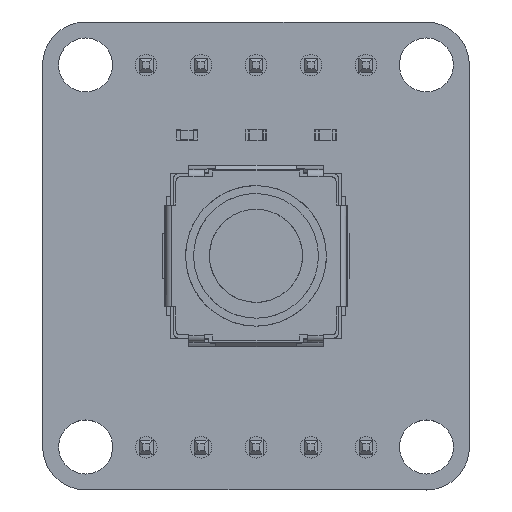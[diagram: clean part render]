
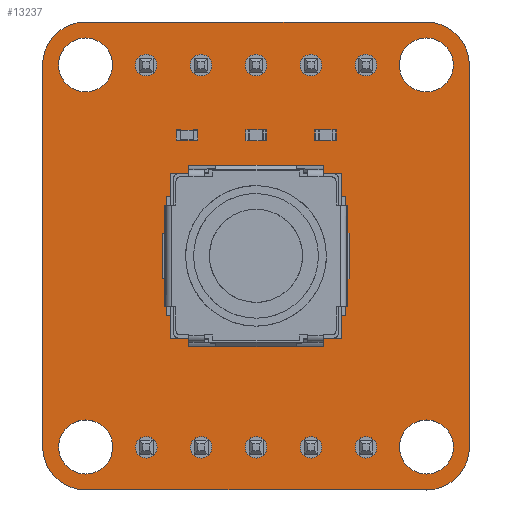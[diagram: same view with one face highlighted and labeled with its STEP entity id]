
A CAD part, top view. The second image highlights one B-rep face of the part: STEP entity #13237.
In plain terms, the highlighted planar face has unit normal (0, 0, 1).
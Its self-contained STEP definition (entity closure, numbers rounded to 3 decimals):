
#12934 = VERTEX_POINT('',#12935);
#12935 = CARTESIAN_POINT('',(153.577,-57.803,1.6));
#12941 = EDGE_CURVE('',#12934,#12942,#12944,.T.);
#12942 = VERTEX_POINT('',#12943);
#12943 = CARTESIAN_POINT('',(155.563,-59.788,1.6));
#12944 = CIRCLE('',#12945,1.986);
#12945 = AXIS2_PLACEMENT_3D('',#12946,#12947,#12948);
#12946 = CARTESIAN_POINT('',(153.577,-59.789,1.6));
#12947 = DIRECTION('',(0.,0.,-1.));
#12948 = DIRECTION('',(0.,1.,0.));
#12976 = VERTEX_POINT('',#12977);
#12977 = CARTESIAN_POINT('',(137.818,-57.803,1.6));
#12983 = EDGE_CURVE('',#12976,#12934,#12984,.T.);
#12984 = LINE('',#12985,#12986);
#12985 = CARTESIAN_POINT('',(137.818,-57.803,1.6));
#12986 = VECTOR('',#12987,1.);
#12987 = DIRECTION('',(1.,0.,0.));
#13005 = EDGE_CURVE('',#12942,#13006,#13008,.T.);
#13006 = VERTEX_POINT('',#13007);
#13007 = CARTESIAN_POINT('',(155.569,-77.454,1.6));
#13008 = LINE('',#13009,#13010);
#13009 = CARTESIAN_POINT('',(155.563,-59.788,1.6));
#13010 = VECTOR('',#13011,1.);
#13011 = DIRECTION('',(0.,-1.,0.));
#13237 = ADVANCED_FACE('',(#13238,#13284,#13295,#13306,#13317,#13328,
    #13339,#13350,#13361,#13372,#13383,#13394,#13405,#13416,#13427),
  #13438,.T.);
#13238 = FACE_BOUND('',#13239,.T.);
#13239 = EDGE_LOOP('',(#13240,#13241,#13242,#13251,#13259,#13268,#13276,
    #13283));
#13240 = ORIENTED_EDGE('',*,*,#12941,.F.);
#13241 = ORIENTED_EDGE('',*,*,#12983,.F.);
#13242 = ORIENTED_EDGE('',*,*,#13243,.F.);
#13243 = EDGE_CURVE('',#13244,#12976,#13246,.T.);
#13244 = VERTEX_POINT('',#13245);
#13245 = CARTESIAN_POINT('',(135.832,-59.789,1.6));
#13246 = CIRCLE('',#13247,1.986);
#13247 = AXIS2_PLACEMENT_3D('',#13248,#13249,#13250);
#13248 = CARTESIAN_POINT('',(137.818,-59.788,1.6));
#13249 = DIRECTION('',(0.,0.,-1.));
#13250 = DIRECTION('',(-1.,0.,-0.));
#13251 = ORIENTED_EDGE('',*,*,#13252,.F.);
#13252 = EDGE_CURVE('',#13253,#13244,#13255,.T.);
#13253 = VERTEX_POINT('',#13254);
#13254 = CARTESIAN_POINT('',(135.838,-77.454,1.6));
#13255 = LINE('',#13256,#13257);
#13256 = CARTESIAN_POINT('',(135.838,-77.454,1.6));
#13257 = VECTOR('',#13258,1.);
#13258 = DIRECTION('',(0.,1.,0.));
#13259 = ORIENTED_EDGE('',*,*,#13260,.F.);
#13260 = EDGE_CURVE('',#13261,#13253,#13263,.T.);
#13261 = VERTEX_POINT('',#13262);
#13262 = CARTESIAN_POINT('',(137.824,-79.439,1.6));
#13263 = CIRCLE('',#13264,1.986);
#13264 = AXIS2_PLACEMENT_3D('',#13265,#13266,#13267);
#13265 = CARTESIAN_POINT('',(137.824,-77.454,1.6));
#13266 = DIRECTION('',(0.,0.,-1.));
#13267 = DIRECTION('',(0.,-1.,-0.));
#13268 = ORIENTED_EDGE('',*,*,#13269,.F.);
#13269 = EDGE_CURVE('',#13270,#13261,#13272,.T.);
#13270 = VERTEX_POINT('',#13271);
#13271 = CARTESIAN_POINT('',(153.583,-79.439,1.6));
#13272 = LINE('',#13273,#13274);
#13273 = CARTESIAN_POINT('',(153.583,-79.439,1.6));
#13274 = VECTOR('',#13275,1.);
#13275 = DIRECTION('',(-1.,0.,0.));
#13276 = ORIENTED_EDGE('',*,*,#13277,.F.);
#13277 = EDGE_CURVE('',#13006,#13270,#13278,.T.);
#13278 = CIRCLE('',#13279,1.986);
#13279 = AXIS2_PLACEMENT_3D('',#13280,#13281,#13282);
#13280 = CARTESIAN_POINT('',(153.583,-77.454,1.6));
#13281 = DIRECTION('',(0.,0.,-1.));
#13282 = DIRECTION('',(1.,0.,0.));
#13283 = ORIENTED_EDGE('',*,*,#13005,.F.);
#13284 = FACE_BOUND('',#13285,.T.);
#13285 = EDGE_LOOP('',(#13286));
#13286 = ORIENTED_EDGE('',*,*,#13287,.T.);
#13287 = EDGE_CURVE('',#13288,#13288,#13290,.T.);
#13288 = VERTEX_POINT('',#13289);
#13289 = CARTESIAN_POINT('',(137.824,-78.704,1.6));
#13290 = CIRCLE('',#13291,1.25);
#13291 = AXIS2_PLACEMENT_3D('',#13292,#13293,#13294);
#13292 = CARTESIAN_POINT('',(137.824,-77.454,1.6));
#13293 = DIRECTION('',(-0.,0.,-1.));
#13294 = DIRECTION('',(-0.,-1.,0.));
#13295 = FACE_BOUND('',#13296,.T.);
#13296 = EDGE_LOOP('',(#13297));
#13297 = ORIENTED_EDGE('',*,*,#13298,.T.);
#13298 = EDGE_CURVE('',#13299,#13299,#13301,.T.);
#13299 = VERTEX_POINT('',#13300);
#13300 = CARTESIAN_POINT('',(140.625,-77.969,1.6));
#13301 = CIRCLE('',#13302,0.5);
#13302 = AXIS2_PLACEMENT_3D('',#13303,#13304,#13305);
#13303 = CARTESIAN_POINT('',(140.625,-77.469,1.6));
#13304 = DIRECTION('',(-0.,0.,-1.));
#13305 = DIRECTION('',(-0.,-1.,0.));
#13306 = FACE_BOUND('',#13307,.T.);
#13307 = EDGE_LOOP('',(#13308));
#13308 = ORIENTED_EDGE('',*,*,#13309,.T.);
#13309 = EDGE_CURVE('',#13310,#13310,#13312,.T.);
#13310 = VERTEX_POINT('',#13311);
#13311 = CARTESIAN_POINT('',(143.165,-77.969,1.6));
#13312 = CIRCLE('',#13313,0.5);
#13313 = AXIS2_PLACEMENT_3D('',#13314,#13315,#13316);
#13314 = CARTESIAN_POINT('',(143.165,-77.469,1.6));
#13315 = DIRECTION('',(-0.,0.,-1.));
#13316 = DIRECTION('',(-0.,-1.,0.));
#13317 = FACE_BOUND('',#13318,.T.);
#13318 = EDGE_LOOP('',(#13319));
#13319 = ORIENTED_EDGE('',*,*,#13320,.T.);
#13320 = EDGE_CURVE('',#13321,#13321,#13323,.T.);
#13321 = VERTEX_POINT('',#13322);
#13322 = CARTESIAN_POINT('',(145.705,-77.969,1.6));
#13323 = CIRCLE('',#13324,0.5);
#13324 = AXIS2_PLACEMENT_3D('',#13325,#13326,#13327);
#13325 = CARTESIAN_POINT('',(145.705,-77.469,1.6));
#13326 = DIRECTION('',(-0.,0.,-1.));
#13327 = DIRECTION('',(-0.,-1.,0.));
#13328 = FACE_BOUND('',#13329,.T.);
#13329 = EDGE_LOOP('',(#13330));
#13330 = ORIENTED_EDGE('',*,*,#13331,.T.);
#13331 = EDGE_CURVE('',#13332,#13332,#13334,.T.);
#13332 = VERTEX_POINT('',#13333);
#13333 = CARTESIAN_POINT('',(148.245,-77.969,1.6));
#13334 = CIRCLE('',#13335,0.5);
#13335 = AXIS2_PLACEMENT_3D('',#13336,#13337,#13338);
#13336 = CARTESIAN_POINT('',(148.245,-77.469,1.6));
#13337 = DIRECTION('',(-0.,0.,-1.));
#13338 = DIRECTION('',(-0.,-1.,0.));
#13339 = FACE_BOUND('',#13340,.T.);
#13340 = EDGE_LOOP('',(#13341));
#13341 = ORIENTED_EDGE('',*,*,#13342,.T.);
#13342 = EDGE_CURVE('',#13343,#13343,#13345,.T.);
#13343 = VERTEX_POINT('',#13344);
#13344 = CARTESIAN_POINT('',(150.785,-77.969,1.6));
#13345 = CIRCLE('',#13346,0.5);
#13346 = AXIS2_PLACEMENT_3D('',#13347,#13348,#13349);
#13347 = CARTESIAN_POINT('',(150.785,-77.469,1.6));
#13348 = DIRECTION('',(-0.,0.,-1.));
#13349 = DIRECTION('',(-0.,-1.,0.));
#13350 = FACE_BOUND('',#13351,.T.);
#13351 = EDGE_LOOP('',(#13352));
#13352 = ORIENTED_EDGE('',*,*,#13353,.T.);
#13353 = EDGE_CURVE('',#13354,#13354,#13356,.T.);
#13354 = VERTEX_POINT('',#13355);
#13355 = CARTESIAN_POINT('',(153.583,-78.704,1.6));
#13356 = CIRCLE('',#13357,1.25);
#13357 = AXIS2_PLACEMENT_3D('',#13358,#13359,#13360);
#13358 = CARTESIAN_POINT('',(153.583,-77.454,1.6));
#13359 = DIRECTION('',(-0.,0.,-1.));
#13360 = DIRECTION('',(-0.,-1.,0.));
#13361 = FACE_BOUND('',#13362,.T.);
#13362 = EDGE_LOOP('',(#13363));
#13363 = ORIENTED_EDGE('',*,*,#13364,.T.);
#13364 = EDGE_CURVE('',#13365,#13365,#13367,.T.);
#13365 = VERTEX_POINT('',#13366);
#13366 = CARTESIAN_POINT('',(137.818,-61.039,1.6));
#13367 = CIRCLE('',#13368,1.25);
#13368 = AXIS2_PLACEMENT_3D('',#13369,#13370,#13371);
#13369 = CARTESIAN_POINT('',(137.818,-59.789,1.6));
#13370 = DIRECTION('',(-0.,0.,-1.));
#13371 = DIRECTION('',(-0.,-1.,0.));
#13372 = FACE_BOUND('',#13373,.T.);
#13373 = EDGE_LOOP('',(#13374));
#13374 = ORIENTED_EDGE('',*,*,#13375,.T.);
#13375 = EDGE_CURVE('',#13376,#13376,#13378,.T.);
#13376 = VERTEX_POINT('',#13377);
#13377 = CARTESIAN_POINT('',(140.62,-60.299,1.6));
#13378 = CIRCLE('',#13379,0.5);
#13379 = AXIS2_PLACEMENT_3D('',#13380,#13381,#13382);
#13380 = CARTESIAN_POINT('',(140.62,-59.799,1.6));
#13381 = DIRECTION('',(-0.,0.,-1.));
#13382 = DIRECTION('',(-0.,-1.,0.));
#13383 = FACE_BOUND('',#13384,.T.);
#13384 = EDGE_LOOP('',(#13385));
#13385 = ORIENTED_EDGE('',*,*,#13386,.T.);
#13386 = EDGE_CURVE('',#13387,#13387,#13389,.T.);
#13387 = VERTEX_POINT('',#13388);
#13388 = CARTESIAN_POINT('',(143.16,-60.299,1.6));
#13389 = CIRCLE('',#13390,0.5);
#13390 = AXIS2_PLACEMENT_3D('',#13391,#13392,#13393);
#13391 = CARTESIAN_POINT('',(143.16,-59.799,1.6));
#13392 = DIRECTION('',(-0.,0.,-1.));
#13393 = DIRECTION('',(-0.,-1.,0.));
#13394 = FACE_BOUND('',#13395,.T.);
#13395 = EDGE_LOOP('',(#13396));
#13396 = ORIENTED_EDGE('',*,*,#13397,.T.);
#13397 = EDGE_CURVE('',#13398,#13398,#13400,.T.);
#13398 = VERTEX_POINT('',#13399);
#13399 = CARTESIAN_POINT('',(145.7,-60.299,1.6));
#13400 = CIRCLE('',#13401,0.5);
#13401 = AXIS2_PLACEMENT_3D('',#13402,#13403,#13404);
#13402 = CARTESIAN_POINT('',(145.7,-59.799,1.6));
#13403 = DIRECTION('',(-0.,0.,-1.));
#13404 = DIRECTION('',(-0.,-1.,0.));
#13405 = FACE_BOUND('',#13406,.T.);
#13406 = EDGE_LOOP('',(#13407));
#13407 = ORIENTED_EDGE('',*,*,#13408,.T.);
#13408 = EDGE_CURVE('',#13409,#13409,#13411,.T.);
#13409 = VERTEX_POINT('',#13410);
#13410 = CARTESIAN_POINT('',(148.24,-60.299,1.6));
#13411 = CIRCLE('',#13412,0.5);
#13412 = AXIS2_PLACEMENT_3D('',#13413,#13414,#13415);
#13413 = CARTESIAN_POINT('',(148.24,-59.799,1.6));
#13414 = DIRECTION('',(-0.,0.,-1.));
#13415 = DIRECTION('',(-0.,-1.,0.));
#13416 = FACE_BOUND('',#13417,.T.);
#13417 = EDGE_LOOP('',(#13418));
#13418 = ORIENTED_EDGE('',*,*,#13419,.T.);
#13419 = EDGE_CURVE('',#13420,#13420,#13422,.T.);
#13420 = VERTEX_POINT('',#13421);
#13421 = CARTESIAN_POINT('',(150.78,-60.299,1.6));
#13422 = CIRCLE('',#13423,0.5);
#13423 = AXIS2_PLACEMENT_3D('',#13424,#13425,#13426);
#13424 = CARTESIAN_POINT('',(150.78,-59.799,1.6));
#13425 = DIRECTION('',(-0.,0.,-1.));
#13426 = DIRECTION('',(-0.,-1.,0.));
#13427 = FACE_BOUND('',#13428,.T.);
#13428 = EDGE_LOOP('',(#13429));
#13429 = ORIENTED_EDGE('',*,*,#13430,.T.);
#13430 = EDGE_CURVE('',#13431,#13431,#13433,.T.);
#13431 = VERTEX_POINT('',#13432);
#13432 = CARTESIAN_POINT('',(153.577,-61.039,1.6));
#13433 = CIRCLE('',#13434,1.25);
#13434 = AXIS2_PLACEMENT_3D('',#13435,#13436,#13437);
#13435 = CARTESIAN_POINT('',(153.577,-59.789,1.6));
#13436 = DIRECTION('',(-0.,0.,-1.));
#13437 = DIRECTION('',(-0.,-1.,0.));
#13438 = PLANE('',#13439);
#13439 = AXIS2_PLACEMENT_3D('',#13440,#13441,#13442);
#13440 = CARTESIAN_POINT('',(0.,0.,1.6));
#13441 = DIRECTION('',(0.,0.,1.));
#13442 = DIRECTION('',(1.,0.,-0.));
